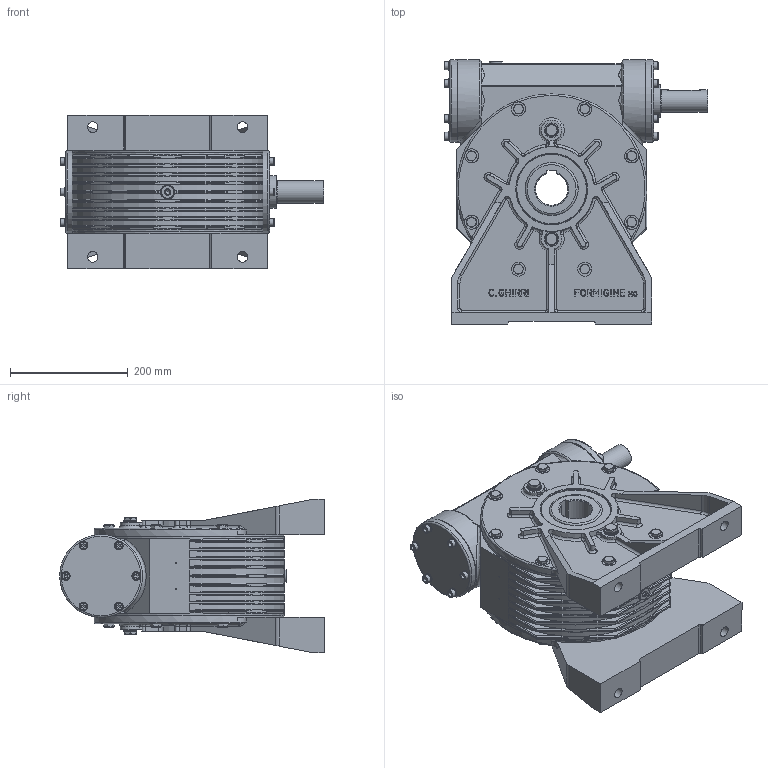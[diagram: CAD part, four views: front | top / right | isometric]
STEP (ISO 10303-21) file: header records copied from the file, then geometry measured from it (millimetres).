
FILE_DESCRIPTION((''),'2;1');
FILE_NAME('Y:\Archivi Inventor\Prog_01\GRAND_70\complessivi\Figurini\mrv70 sito\RV70\RV----70---P2---------------3D.stp','2013-03-28T08:18:45',('tech3'),(''),'Autodesk Inventor 2013','Autodesk Inventor 2013','');
FILE_SCHEMA(('AUTOMOTIVE_DESIGN { 1 0 10303 214 1 1 1 1 }'));
Length unit declared in the file: millimetre
Products named in the file (19): RV----70---P2---------------3D; MRV70 figurino; 0107001-A0 figurino; 0107008.A0 figurino; 0107010.A0 figurino; 0107029; 0107009; 0107028; DIN 3760 AS AS - 90 x 120 x 12 - NBR; UNI 8839 A 8; Guarnizione 3_8 GAS; Tappo 3_8 GAS_esagn_incsst; DIN EN ISO 4762 M8 x 20; DIN EN 24017 M10 x 20; Tappo3_8 GAS; 0107012; DIN EN ISO 4762 M8 x 16; 0107011.A0 figurino; 55_70_8
Assembly tree (61 placements, depth 3):
  RV----70---P2---------------3D
    MRV70 figurino
      0107001-A0 figurino
      0107008.A0 figurino
      0107010.A0 figurino  x2
      0107029  x2
      0107009
      0107028  x2
      DIN 3760 AS AS - 90 x 120 x 12 - NBR  x2
      UNI 8839 A 8  x6
      Guarnizione 3_8 GAS  x6
      Tappo 3_8 GAS_esagn_incsst  x2
      DIN EN ISO 4762 M8 x 20  x6
      DIN EN 24017 M10 x 20  x16
      Tappo3_8 GAS  x4
    0107012
    DIN EN ISO 4762 M8 x 16  x6
    0107011.A0 figurino
    55_70_8
Bounding box: 449 x 450.5 x 260.8 mm (x, y, z)
Volume: 17161143.5 mm3; surface area: 1563192.6 mm2
Topology: 61 solids, 62 shells, 2471 faces, 6043 edges, 3736 vertices
Faces by surface type: plane 908, bspline 588, cylinder 561, cone 231, torus 179, sphere 4
Full cylindrical faces by diameter (mm): 2 x2, 6.647 x12, 8 x14, 8.376 x16, 8.5 x25, 10 x16, 10.5 x17, 11 x16, 13 x12, 13.046 x4, 14.63 x16, 14.95 x6, 16.3 x6, 16.5 x2, 18 x4, 22 x12, 24 x18, 25 x4, 37.4 x1, 38 x1, 55 x1, 61 x1, 66.4 x1, 69 x1, 70 x2, 75 x1, 90 x4, 97.2 x2, 100 x6, 114 x2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
Entity records: 47852 total; most frequent: CARTESIAN_POINT 17590, ORIENTED_EDGE 6008, DIRECTION 5493, EDGE_CURVE 3004, AXIS2_PLACEMENT_3D 2182, VERTEX_POINT 1994, EDGE_LOOP 1750, FACE_OUTER_BOUND 1351
